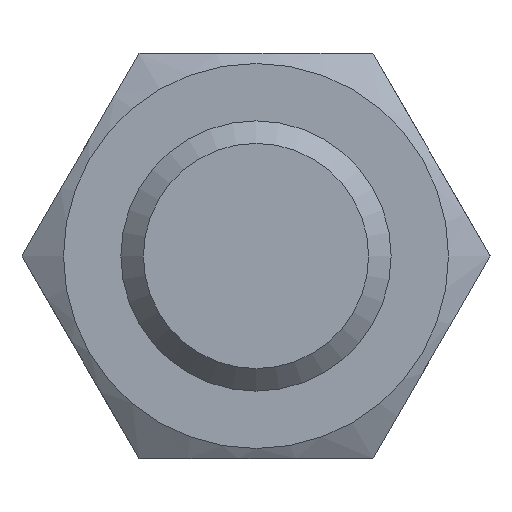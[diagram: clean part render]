
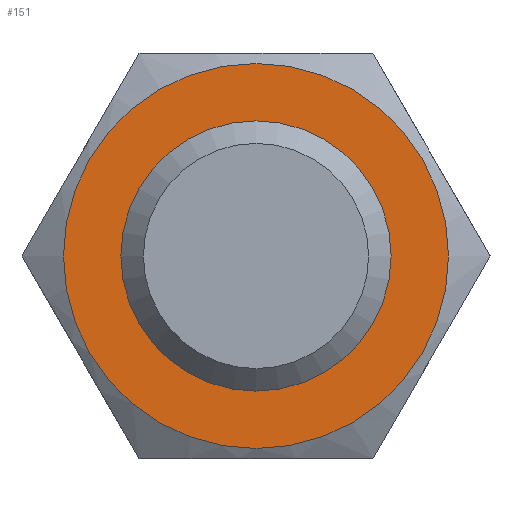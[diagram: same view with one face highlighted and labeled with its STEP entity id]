
A CAD part, left-side view. The second image highlights one B-rep face of the part: STEP entity #151.
In plain terms, the highlighted planar face has unit normal (-1, 0, 0) as drawn and (0, 0, 1) by its records, which use the part's own axes.
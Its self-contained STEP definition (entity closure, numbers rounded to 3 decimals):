
#151=ADVANCED_FACE('',(#462,#464),#466,.T.);
#462=FACE_BOUND('',#463,.T.);
#463=EDGE_LOOP('',(#635));
#464=FACE_BOUND('',#465,.T.);
#465=EDGE_LOOP('',(#636));
#466=PLANE('',#467);
#467=AXIS2_PLACEMENT_3D('',#468,#469,#470);
#468=CARTESIAN_POINT('',(0.,0.,10.8));
#469=DIRECTION('',(0.,0.,1.));
#470=DIRECTION('',(1.,0.,0.));
#635=ORIENTED_EDGE('',*,*,#715,.T.);
#636=ORIENTED_EDGE('',*,*,#716,.T.);
#715=EDGE_CURVE('',#841,#841,#842,.F.);
#716=EDGE_CURVE('',#843,#843,#844,.F.);
#841=VERTEX_POINT('',#2207);
#842=CIRCLE('',#2208,8.55);
#843=VERTEX_POINT('',#2212);
#844=CIRCLE('',#2213,6.);
#2207=CARTESIAN_POINT('',(0.,8.55,10.8));
#2208=AXIS2_PLACEMENT_3D('',#2209,#2210,#2211);
#2209=CARTESIAN_POINT('',(0.,0.,10.8));
#2210=DIRECTION('',(0.,0.,-1.));
#2211=DIRECTION('',(0.,1.,0.));
#2212=CARTESIAN_POINT('',(6.,0.,10.8));
#2213=AXIS2_PLACEMENT_3D('',#2214,#2215,#2216);
#2214=CARTESIAN_POINT('',(0.,0.,10.8));
#2215=DIRECTION('',(0.,0.,1.));
#2216=DIRECTION('',(1.,0.,0.));
